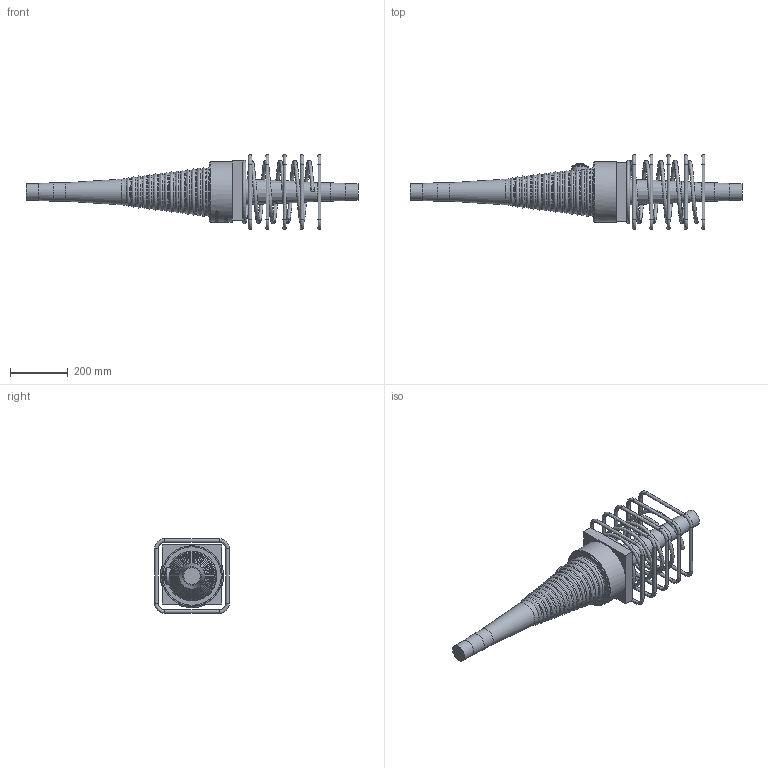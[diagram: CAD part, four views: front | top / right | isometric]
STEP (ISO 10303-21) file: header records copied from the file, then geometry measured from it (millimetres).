
FILE_DESCRIPTION(/* description */ (''),/* implementation_level */ '2;1');
FILE_NAME(/* name */ 'Z:\04 Publications\05 Give-out\BBR\6_3D_Models\BBR VT CONA CMI\BBR VT CONA CMI SP\00706\BBR VT CONA CMI SP 706_Couler K Assembly_CS-34,28.stp',/* time_stamp */ '2017-05-10T08:45:27+02:00',/* author */ ('IP'),/* organization */ (''),/* preprocessor_version */ 'ST-DEVELOPER v16.1',/* originating_system */ 'Autodesk Inventor 2016',/* authorisation */ '');
FILE_SCHEMA (('AUTOMOTIVE_DESIGN { 1 0 10303 214 3 1 1 }'));
Length unit declared in the file: millimetre
Products named in the file (1): BBR VT CONA CMI SP 706_Couler K Assembly_CS-34,28
Bounding box: 1152.87 x 260 x 260 mm (x, y, z)
Volume: 12380935.3 mm3; surface area: 762085 mm2
Topology: 7 solids, 7 shells, 839 faces, 2168 edges, 1398 vertices
Faces by surface type: bspline 393, plane 253, cylinder 90, torus 74, cone 17, sphere 12
Full cylindrical faces by diameter (mm): 12 x20, 34 x1, 57 x1, 59 x2, 64 x2, 203 x1, 210 x1
Entity records: 36941 total; most frequent: CARTESIAN_POINT 19048, ORIENTED_EDGE 4110, DIRECTION 2579, EDGE_CURVE 2053, VERTEX_POINT 1392, EDGE_LOOP 1015, AXIS2_PLACEMENT_3D 865, LINE 849
